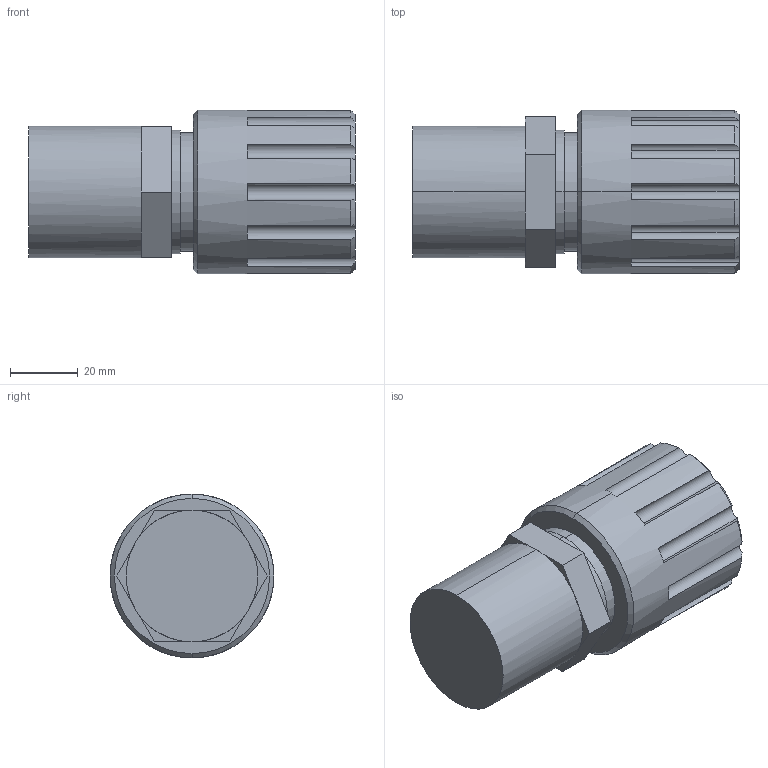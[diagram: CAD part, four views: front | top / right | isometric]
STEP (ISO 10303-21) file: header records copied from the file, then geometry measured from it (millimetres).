
FILE_DESCRIPTION (( 'STEP AP214' ), '1' );
FILE_NAME ('16 FLARETEC FITTING.STEP', '2012-11-30T20:09:03', ( '' ), ( '' ), 'SwSTEP 2.0', 'SolidWorks 2012', '' );
FILE_SCHEMA (( 'AUTOMOTIVE_DESIGN' ));
Length unit declared in the file: inch
Products named in the file (1): 16 FLARETEC FITTING
Bounding box: 96.11 x 48.26 x 48.26 mm (x, y, z)
Volume: 131603.3 mm3; surface area: 19529.3 mm2
Topology: 1 solids, 1 shells, 77 faces, 199 edges, 128 vertices
Faces by surface type: plane 36, cylinder 27, cone 14
Entity records: 2848 total; most frequent: CARTESIAN_POINT 531, DIRECTION 431, ORIENTED_EDGE 398, EDGE_CURVE 199, AXIS2_PLACEMENT_3D 180, VERTEX_POINT 128, CIRCLE 102, EDGE_LOOP 81
